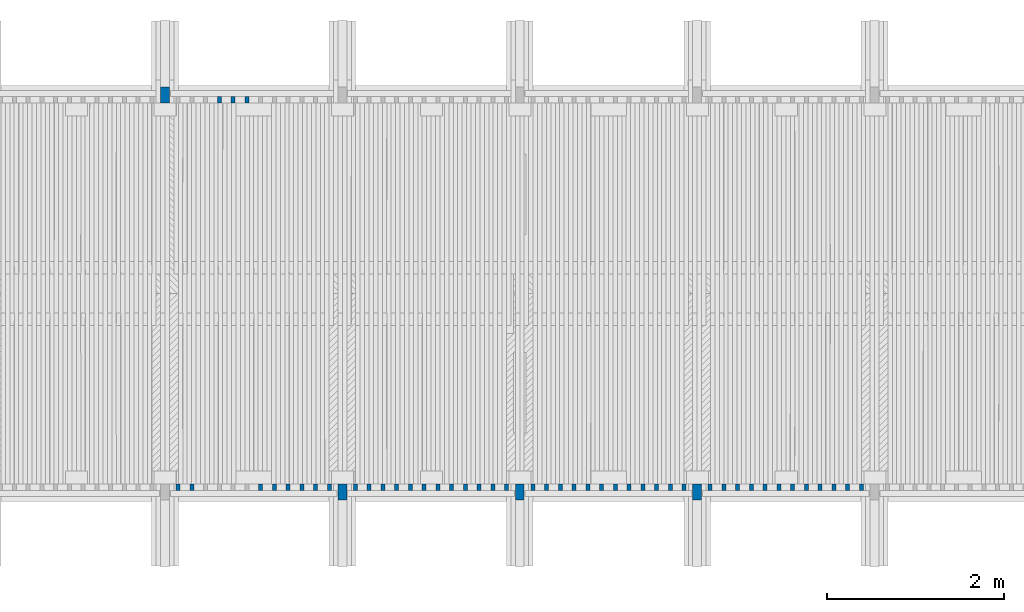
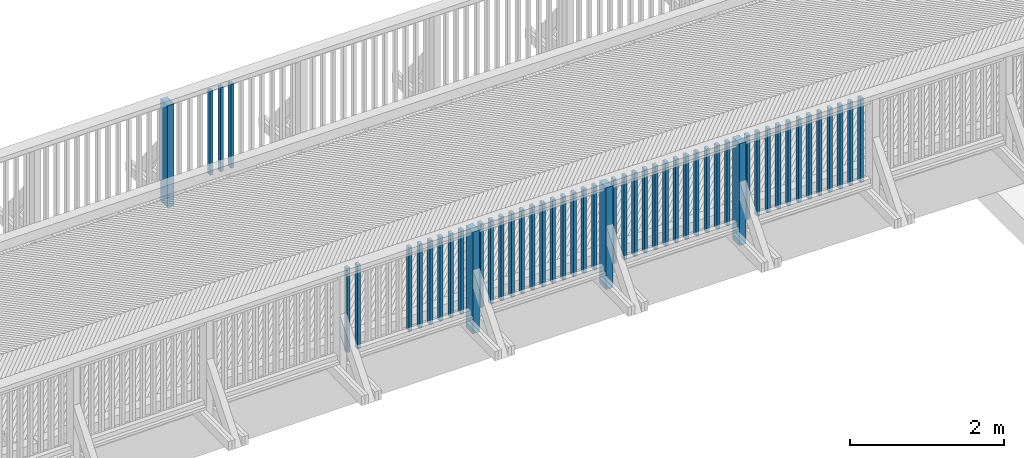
# One storey, part 8 of 53: 51 columns.
"""IFC2X3 building model written with IfcOpenShell, lengths in millimetres."""

from ifc_helpers import new_model, si_unit, frame, origin_with_axes, place, context, subcontext, project, spatial, faceted_brep, material, type_object, element, save


model = new_model("IFC2X3")

# Units and contexts
model_context = context("Model", 3, precision=1e-05, world=origin_with_axes())
body_context = subcontext(model_context, "Body", "Model", "MODEL_VIEW")
ifc_project = project(units=[si_unit("LENGTHUNIT", "METRE", prefix="MILLI"), si_unit("AREAUNIT", "SQUARE_METRE"), si_unit("VOLUMEUNIT", "CUBIC_METRE"), si_unit("MASSUNIT", "GRAM", prefix="KILO"), si_unit("TIMEUNIT", "SECOND"), si_unit("PLANEANGLEUNIT", "RADIAN"), si_unit("SOLIDANGLEUNIT", "STERADIAN"), si_unit("THERMODYNAMICTEMPERATUREUNIT", "DEGREE_CELSIUS"), si_unit("LUMINOUSINTENSITYUNIT", "LUMEN")], contexts=[model_context])

# Site, building, storey
site_placement = place(None, origin_with_axes())
site = spatial("IfcSite", under=ifc_project, at=site_placement, Name="Undefined", CompositionType="ELEMENT")
building_placement = place(site_placement, origin_with_axes())
building = spatial("IfcBuilding", under=site, at=building_placement, Name="Undefined", CompositionType="ELEMENT")
storey_placement = place(building_placement, origin_with_axes())
storey = spatial("IfcBuildingStorey", under=building, at=storey_placement, Name="Undefined", CompositionType="ELEMENT", Elevation=0.0)

# Columns
ifc_material = material(Name="TIMBER/Timber_Undefined")
column_type_1 = type_object("IfcColumnType", Name="180*100", PredefinedType="NOTDEFINED")
for number, where, z_axis, x_axis in (
    (1, (4000.00006783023, 44604.9879081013, 2930.03388043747), (0.0, -1.0, 0.0), (0.0, 0.0, 1.0)),
    (2, (10000.0000678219, 40125.0120918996, 2939.97693042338), (0.0, 1.0, 0.0), (0.0, 0.0, 1.0)),
    (3, (8000.00006782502, 40125.0120918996, 2943.29124390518), (0.0, 1.0, 0.0), (0.0, 0.0, 1.0)),
    (4, (6000.00006782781, 40125.0120918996, 2939.97693031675), (0.0, 1.0, 0.0), (0.0, 0.0, 1.0)),
):
    element("IfcColumn", number, at=place(storey_placement, frame(where, z_axis=z_axis, x_axis=x_axis)), inside=storey, type_object=column_type_1, material=ifc_material, Name="KAIDEPYLVÄS", ObjectType="180*100", context=body_context, shape_type="Brep", body=[
        faceted_brep([(0.0, 50.0, -89.9999999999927), (0.0, 50.0, 90.0), (1620.0, 50.0, 90.0), (1620.0, 50.0, -90.0), (0.0, -49.9999999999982, 90.0000000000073), (1620.0, -50.0, 90.0), (-3.63797880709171e-12, -49.9999999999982, -90.0), (1620.0, -50.0, -90.0)], [[[0, 1, 2, 3]], [[1, 4, 5, 2]], [[4, 6, 7, 5]], [[6, 0, 3, 7]], [[5, 7, 3, 2]], [[6, 4, 1, 0]]]),
    ])
column_type_2 = type_object("IfcColumnType", Name="70*45", PredefinedType="NOTDEFINED")
column_1_placement = place(storey_placement, frame((4922.50000075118, 44549.9879080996, 3109.68000000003), z_axis=(0.0, 1.0, 0.0), x_axis=(0.0, 0.0, 1.0)))
element("IfcColumn", 5, at=column_1_placement, inside=storey, type_object=column_type_2, material=ifc_material, Name="BEAM", ObjectType="70*45", context=body_context, shape_type="Brep", body=[
    faceted_brep([(110.036620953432, 22.5, -35.0), (110.036620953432, 22.5, 35.0), (1445.03757946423, 22.5, 35.0), (1445.03757946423, 22.5, -35.0), (109.801127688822, -22.5, 35.0), (1444.80208619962, -22.5, 35.0), (109.801127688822, -22.5, -35.0), (1444.80208619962, -22.5, -35.0)], [[[0, 1, 2, 3]], [[1, 4, 5, 2]], [[4, 6, 7, 5]], [[6, 0, 3, 7]], [[5, 7, 3, 2]], [[6, 4, 1, 0]]]),
])
column_2_placement = place(storey_placement, frame((4767.50000075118, 44549.9879080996, 3109.68000000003), z_axis=(0.0, 1.0, 0.0), x_axis=(0.0, 0.0, 1.0)))
element("IfcColumn", 6, at=column_2_placement, inside=storey, type_object=column_type_2, material=ifc_material, Name="BEAM", ObjectType="70*45", context=body_context, shape_type="Brep", body=[
    faceted_brep([(109.225477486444, 22.5, -35.0), (109.225477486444, 22.5, 35.0), (1444.22643599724, 22.5, 35.0), (1444.22643599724, 22.5, -35.0), (108.989984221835, -22.5, 35.0), (1443.99094273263, -22.5, 35.0), (108.989984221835, -22.5, -35.0), (1443.99094273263, -22.5, -35.0)], [[[0, 1, 2, 3]], [[1, 4, 5, 2]], [[4, 6, 7, 5]], [[6, 0, 3, 7]], [[5, 7, 3, 2]], [[6, 4, 1, 0]]]),
])
column_3_placement = place(storey_placement, frame((4612.50000075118, 44549.9879080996, 3109.68000000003), z_axis=(0.0, 1.0, 0.0), x_axis=(0.0, 0.0, 1.0)))
element("IfcColumn", 7, at=column_3_placement, inside=storey, type_object=column_type_2, material=ifc_material, Name="BEAM", ObjectType="70*45", context=body_context, shape_type="Brep", body=[
    faceted_brep([(108.414334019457, 22.5, -35.0), (108.414334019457, 22.5, 35.0), (1443.41529253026, 22.5, 35.0), (1443.41529253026, 22.5, -35.0), (108.178840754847, -22.5, 35.0), (1443.17979926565, -22.5, 35.0), (108.178840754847, -22.5, -35.0), (1443.17979926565, -22.5, -35.0)], [[[0, 1, 2, 3]], [[1, 4, 5, 2]], [[4, 6, 7, 5]], [[6, 0, 3, 7]], [[5, 7, 3, 2]], [[6, 4, 1, 0]]]),
])
column_4_placement = place(storey_placement, frame((11852.5000007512, 40180.0120919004, 3109.68000000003), z_axis=(0.0, -1.0, 0.0), x_axis=(0.0, 0.0, 1.0)))
element("IfcColumn", 8, at=column_4_placement, inside=storey, type_object=column_type_2, material=ifc_material, Name="BEAM", ObjectType="70*45", context=body_context, shape_type="Brep", body=[
    faceted_brep([(105.980903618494, 22.5, -35.0), (105.980903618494, 22.5, 35.0), (1440.98186212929, 22.5, 35.0), (1440.98186212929, 22.5, -35.0), (105.745410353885, -22.5, 35.0), (1440.74636886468, -22.5, 35.0), (105.745410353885, -22.5, -35.0), (1440.74636886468, -22.5, -35.0)], [[[0, 1, 2, 3]], [[1, 4, 5, 2]], [[4, 6, 7, 5]], [[6, 0, 3, 7]], [[5, 7, 3, 2]], [[6, 4, 1, 0]]]),
])
column_5_placement = place(storey_placement, frame((11697.5000007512, 40180.0120919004, 3109.68000000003), z_axis=(0.0, -1.0, 0.0), x_axis=(0.0, 0.0, 1.0)))
element("IfcColumn", 9, at=column_5_placement, inside=storey, type_object=column_type_2, material=ifc_material, Name="BEAM", ObjectType="70*45", context=body_context, shape_type="Brep", body=[
    faceted_brep([(106.792047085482, 22.5, -35.0), (106.792047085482, 22.5, 35.0), (1441.79300559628, 22.5, 35.0), (1441.79300559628, 22.5, -35.0), (106.556553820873, -22.5, 35.0), (1441.55751233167, -22.5, 35.0), (106.556553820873, -22.5, -35.0), (1441.55751233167, -22.5, -35.0)], [[[0, 1, 2, 3]], [[1, 4, 5, 2]], [[4, 6, 7, 5]], [[6, 0, 3, 7]], [[5, 7, 3, 2]], [[6, 4, 1, 0]]]),
])
column_6_placement = place(storey_placement, frame((11542.5000007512, 40180.0120919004, 3109.68000000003), z_axis=(0.0, -1.0, 0.0), x_axis=(0.0, 0.0, 1.0)))
element("IfcColumn", 10, at=column_6_placement, inside=storey, type_object=column_type_2, material=ifc_material, Name="BEAM", ObjectType="70*45", context=body_context, shape_type="Brep", body=[
    faceted_brep([(107.603190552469, 22.5, -35.0), (107.603190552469, 22.5, 35.0), (1442.60414906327, 22.5, 35.0), (1442.60414906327, 22.5, -35.0), (107.36769728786, -22.5, 35.0), (1442.36865579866, -22.5, 35.0), (107.36769728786, -22.5, -35.0), (1442.36865579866, -22.5, -35.0)], [[[0, 1, 2, 3]], [[1, 4, 5, 2]], [[4, 6, 7, 5]], [[6, 0, 3, 7]], [[5, 7, 3, 2]], [[6, 4, 1, 0]]]),
])
column_7_placement = place(storey_placement, frame((11387.5000007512, 40180.0120919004, 3109.68000000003), z_axis=(0.0, -1.0, 0.0), x_axis=(0.0, 0.0, 1.0)))
element("IfcColumn", 11, at=column_7_placement, inside=storey, type_object=column_type_2, material=ifc_material, Name="BEAM", ObjectType="70*45", context=body_context, shape_type="Brep", body=[
    faceted_brep([(108.414334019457, 22.5, -35.0), (108.414334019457, 22.5, 35.0), (1443.41529253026, 22.5, 35.0), (1443.41529253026, 22.5, -35.0), (108.178840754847, -22.5, 35.0), (1443.17979926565, -22.5, 35.0), (108.178840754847, -22.5, -35.0), (1443.17979926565, -22.5, -35.0)], [[[0, 1, 2, 3]], [[1, 4, 5, 2]], [[4, 6, 7, 5]], [[6, 0, 3, 7]], [[5, 7, 3, 2]], [[6, 4, 1, 0]]]),
])
column_8_placement = place(storey_placement, frame((11232.5000007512, 40180.0120919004, 3109.68000000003), z_axis=(0.0, -1.0, 0.0), x_axis=(0.0, 0.0, 1.0)))
element("IfcColumn", 12, at=column_8_placement, inside=storey, type_object=column_type_2, material=ifc_material, Name="BEAM", ObjectType="70*45", context=body_context, shape_type="Brep", body=[
    faceted_brep([(109.225477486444, 22.5, -35.0), (109.225477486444, 22.5, 35.0), (1444.22643599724, 22.5, 35.0), (1444.22643599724, 22.5, -35.0), (108.989984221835, -22.5, 35.0), (1443.99094273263, -22.5, 35.0), (108.989984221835, -22.5, -35.0), (1443.99094273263, -22.5, -35.0)], [[[0, 1, 2, 3]], [[1, 4, 5, 2]], [[4, 6, 7, 5]], [[6, 0, 3, 7]], [[5, 7, 3, 2]], [[6, 4, 1, 0]]]),
])
column_9_placement = place(storey_placement, frame((11077.5000007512, 40180.0120919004, 3109.68000000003), z_axis=(0.0, -1.0, 0.0), x_axis=(0.0, 0.0, 1.0)))
element("IfcColumn", 13, at=column_9_placement, inside=storey, type_object=column_type_2, material=ifc_material, Name="BEAM", ObjectType="70*45", context=body_context, shape_type="Brep", body=[
    faceted_brep([(110.036620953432, 22.5, -35.0), (110.036620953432, 22.5, 35.0), (1445.03757946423, 22.5, 35.0), (1445.03757946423, 22.5, -35.0), (109.801127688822, -22.5, 35.0), (1444.80208619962, -22.5, 35.0), (109.801127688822, -22.5, -35.0), (1444.80208619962, -22.5, -35.0)], [[[0, 1, 2, 3]], [[1, 4, 5, 2]], [[4, 6, 7, 5]], [[6, 0, 3, 7]], [[5, 7, 3, 2]], [[6, 4, 1, 0]]]),
])
column_10_placement = place(storey_placement, frame((10922.5000007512, 40180.0120919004, 3109.68000000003), z_axis=(0.0, -1.0, 0.0), x_axis=(0.0, 0.0, 1.0)))
element("IfcColumn", 14, at=column_10_placement, inside=storey, type_object=column_type_2, material=ifc_material, Name="BEAM", ObjectType="70*45", context=body_context, shape_type="Brep", body=[
    faceted_brep([(110.847764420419, 22.5, -35.0), (110.847764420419, 22.5, 35.0), (1445.84872293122, 22.5, 35.0), (1445.84872293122, 22.5, -35.0), (110.61227115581, -22.5, 35.0), (1445.61322966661, -22.5, 35.0), (110.61227115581, -22.5, -35.0), (1445.61322966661, -22.5, -35.0)], [[[0, 1, 2, 3]], [[1, 4, 5, 2]], [[4, 6, 7, 5]], [[6, 0, 3, 7]], [[5, 7, 3, 2]], [[6, 4, 1, 0]]]),
])
column_11_placement = place(storey_placement, frame((10767.5000007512, 40180.0120919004, 3109.68000000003), z_axis=(0.0, -1.0, 0.0), x_axis=(0.0, 0.0, 1.0)))
element("IfcColumn", 15, at=column_11_placement, inside=storey, type_object=column_type_2, material=ifc_material, Name="BEAM", ObjectType="70*45", context=body_context, shape_type="Brep", body=[
    faceted_brep([(111.658907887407, 22.5, -35.0), (111.658907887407, 22.5, 35.0), (1446.65986639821, 22.5, 35.0), (1446.65986639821, 22.5, -35.0), (111.423414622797, -22.5, 35.0), (1446.4243731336, -22.5, 35.0), (111.423414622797, -22.5, -35.0), (1446.4243731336, -22.5, -35.0)], [[[0, 1, 2, 3]], [[1, 4, 5, 2]], [[4, 6, 7, 5]], [[6, 0, 3, 7]], [[5, 7, 3, 2]], [[6, 4, 1, 0]]]),
])
column_12_placement = place(storey_placement, frame((10612.5000007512, 40180.0120919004, 3109.68000000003), z_axis=(0.0, -1.0, 0.0), x_axis=(0.0, 0.0, 1.0)))
element("IfcColumn", 16, at=column_12_placement, inside=storey, type_object=column_type_2, material=ifc_material, Name="BEAM", ObjectType="70*45", context=body_context, shape_type="Brep", body=[
    faceted_brep([(112.470051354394, 22.5, -35.0), (112.470051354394, 22.5, 35.0), (1447.47100986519, 22.5, 35.0), (1447.47100986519, 22.5, -35.0), (112.234558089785, -22.5, 35.0), (1447.23551660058, -22.5, 35.0), (112.234558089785, -22.5, -35.0), (1447.23551660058, -22.5, -35.0)], [[[0, 1, 2, 3]], [[1, 4, 5, 2]], [[4, 6, 7, 5]], [[6, 0, 3, 7]], [[5, 7, 3, 2]], [[6, 4, 1, 0]]]),
])
column_13_placement = place(storey_placement, frame((10457.5000007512, 40180.0120919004, 3109.68000000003), z_axis=(0.0, -1.0, 0.0), x_axis=(0.0, 0.0, 1.0)))
element("IfcColumn", 17, at=column_13_placement, inside=storey, type_object=column_type_2, material=ifc_material, Name="BEAM", ObjectType="70*45", context=body_context, shape_type="Brep", body=[
    faceted_brep([(113.281194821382, 22.5, -35.0), (113.281194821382, 22.5, 35.0), (1448.28215333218, 22.5, 35.0), (1448.28215333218, 22.5, -35.0), (113.045701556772, -22.5, 35.0), (1448.04666006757, -22.5, 35.0), (113.045701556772, -22.5, -35.0), (1448.04666006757, -22.5, -35.0)], [[[0, 1, 2, 3]], [[1, 4, 5, 2]], [[4, 6, 7, 5]], [[6, 0, 3, 7]], [[5, 7, 3, 2]], [[6, 4, 1, 0]]]),
])
column_14_placement = place(storey_placement, frame((10302.5000007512, 40180.0120919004, 3109.68000000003), z_axis=(0.0, -1.0, 0.0), x_axis=(0.0, 0.0, 1.0)))
element("IfcColumn", 18, at=column_14_placement, inside=storey, type_object=column_type_2, material=ifc_material, Name="BEAM", ObjectType="70*45", context=body_context, shape_type="Brep", body=[
    faceted_brep([(114.092338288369, 22.5, -35.0), (114.092338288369, 22.5, 35.0), (1449.09329679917, 22.5, 35.0), (1449.09329679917, 22.5, -35.0), (113.85684502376, -22.5, 35.0), (1448.85780353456, -22.5, 35.0), (113.85684502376, -22.5, -35.0), (1448.85780353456, -22.5, -35.0)], [[[0, 1, 2, 3]], [[1, 4, 5, 2]], [[4, 6, 7, 5]], [[6, 0, 3, 7]], [[5, 7, 3, 2]], [[6, 4, 1, 0]]]),
])
column_15_placement = place(storey_placement, frame((10147.5000007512, 40180.0120919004, 3109.68000000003), z_axis=(0.0, -1.0, 0.0), x_axis=(0.0, 0.0, 1.0)))
element("IfcColumn", 19, at=column_15_placement, inside=storey, type_object=column_type_2, material=ifc_material, Name="BEAM", ObjectType="70*45", context=body_context, shape_type="Brep", body=[
    faceted_brep([(114.903481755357, 22.5, -35.0), (114.903481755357, 22.5, 35.0), (1449.90444026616, 22.5, 35.0), (1449.90444026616, 22.5, -35.0), (114.667988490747, -22.5, 35.0), (1449.66894700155, -22.5, 35.0), (114.667988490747, -22.5, -35.0), (1449.66894700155, -22.5, -35.0)], [[[0, 1, 2, 3]], [[1, 4, 5, 2]], [[4, 6, 7, 5]], [[6, 0, 3, 7]], [[5, 7, 3, 2]], [[6, 4, 1, 0]]]),
])
column_16_placement = place(storey_placement, frame((9852.50000075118, 40180.0120919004, 3109.68000000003), z_axis=(0.0, -1.0, 0.0), x_axis=(0.0, 0.0, 1.0)))
element("IfcColumn", 20, at=column_16_placement, inside=storey, type_object=column_type_2, material=ifc_material, Name="BEAM", ObjectType="70*45", context=body_context, shape_type="Brep", body=[
    faceted_brep([(115.506148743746, 22.5, -35.0), (115.506148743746, 22.5, 35.0), (1450.50625524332, 22.5, 35.0), (1450.50625524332, 22.5, -35.0), (115.427651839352, -22.5, 35.0), (1450.42775833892, -22.5, 35.0), (115.427651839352, -22.5, -35.0), (1450.42775833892, -22.5, -35.0)], [[[0, 1, 2, 3]], [[1, 4, 5, 2]], [[4, 6, 7, 5]], [[6, 0, 3, 7]], [[5, 7, 3, 2]], [[6, 4, 1, 0]]]),
])
column_17_placement = place(storey_placement, frame((9697.50000075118, 40180.0120919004, 3109.68000000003), z_axis=(0.0, -1.0, 0.0), x_axis=(0.0, 0.0, 1.0)))
element("IfcColumn", 21, at=column_17_placement, inside=storey, type_object=column_type_2, material=ifc_material, Name="BEAM", ObjectType="70*45", context=body_context, shape_type="Brep", body=[
    faceted_brep([(115.776526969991, 22.5, -35.0), (115.776526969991, 22.5, 35.0), (1450.77663346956, 22.5, 35.0), (1450.77663346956, 22.5, -35.0), (115.698030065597, -22.5, 35.0), (1450.69813656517, -22.5, 35.0), (115.698030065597, -22.5, -35.0), (1450.69813656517, -22.5, -35.0)], [[[0, 1, 2, 3]], [[1, 4, 5, 2]], [[4, 6, 7, 5]], [[6, 0, 3, 7]], [[5, 7, 3, 2]], [[6, 4, 1, 0]]]),
])
column_18_placement = place(storey_placement, frame((9542.50000075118, 40180.0120919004, 3109.68000000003), z_axis=(0.0, -1.0, 0.0), x_axis=(0.0, 0.0, 1.0)))
element("IfcColumn", 22, at=column_18_placement, inside=storey, type_object=column_type_2, material=ifc_material, Name="BEAM", ObjectType="70*45", context=body_context, shape_type="Brep", body=[
    faceted_brep([(116.046905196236, 22.5, -35.0), (116.046905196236, 22.5, 35.0), (1451.04701169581, 22.5, 35.0), (1451.04701169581, 22.5, -35.0), (115.968408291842, -22.5, 35.0), (1450.96851479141, -22.5, 35.0), (115.968408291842, -22.5, -35.0), (1450.96851479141, -22.5, -35.0)], [[[0, 1, 2, 3]], [[1, 4, 5, 2]], [[4, 6, 7, 5]], [[6, 0, 3, 7]], [[5, 7, 3, 2]], [[6, 4, 1, 0]]]),
])
column_19_placement = place(storey_placement, frame((9387.50000075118, 40180.0120919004, 3109.68000000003), z_axis=(0.0, -1.0, 0.0), x_axis=(0.0, 0.0, 1.0)))
element("IfcColumn", 23, at=column_19_placement, inside=storey, type_object=column_type_2, material=ifc_material, Name="BEAM", ObjectType="70*45", context=body_context, shape_type="Brep", body=[
    faceted_brep([(116.317283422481, 22.5, -35.0), (116.317283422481, 22.5, 35.0), (1451.31738992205, 22.5, 35.0), (1451.31738992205, 22.5, -35.0), (116.238786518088, -22.5, 35.0), (1451.23889301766, -22.5, 35.0), (116.238786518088, -22.5, -35.0), (1451.23889301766, -22.5, -35.0)], [[[0, 1, 2, 3]], [[1, 4, 5, 2]], [[4, 6, 7, 5]], [[6, 0, 3, 7]], [[5, 7, 3, 2]], [[6, 4, 1, 0]]]),
])
column_20_placement = place(storey_placement, frame((9232.50000075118, 40180.0120919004, 3109.68000000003), z_axis=(0.0, -1.0, 0.0), x_axis=(0.0, 0.0, 1.0)))
element("IfcColumn", 24, at=column_20_placement, inside=storey, type_object=column_type_2, material=ifc_material, Name="BEAM", ObjectType="70*45", context=body_context, shape_type="Brep", body=[
    faceted_brep([(116.587661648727, 22.5, -35.0), (116.587661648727, 22.5, 35.0), (1451.5877681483, 22.5, 35.0), (1451.5877681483, 22.5, -35.0), (116.509164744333, -22.5, 35.0), (1451.5092712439, -22.5, 35.0), (116.509164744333, -22.5, -35.0), (1451.5092712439, -22.5, -35.0)], [[[0, 1, 2, 3]], [[1, 4, 5, 2]], [[4, 6, 7, 5]], [[6, 0, 3, 7]], [[5, 7, 3, 2]], [[6, 4, 1, 0]]]),
])
column_21_placement = place(storey_placement, frame((9077.50000075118, 40180.0120919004, 3109.68000000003), z_axis=(0.0, -1.0, 0.0), x_axis=(0.0, 0.0, 1.0)))
element("IfcColumn", 25, at=column_21_placement, inside=storey, type_object=column_type_2, material=ifc_material, Name="BEAM", ObjectType="70*45", context=body_context, shape_type="Brep", body=[
    faceted_brep([(116.858039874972, 22.5, -35.0), (116.858039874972, 22.5, 35.0), (1451.85814637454, 22.5, 35.0), (1451.85814637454, 22.5, -35.0), (116.779542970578, -22.5, 35.0), (1451.77964947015, -22.5, 35.0), (116.779542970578, -22.5, -35.0), (1451.77964947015, -22.5, -35.0)], [[[0, 1, 2, 3]], [[1, 4, 5, 2]], [[4, 6, 7, 5]], [[6, 0, 3, 7]], [[5, 7, 3, 2]], [[6, 4, 1, 0]]]),
])
column_22_placement = place(storey_placement, frame((8922.50000075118, 40180.0120919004, 3109.68000000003), z_axis=(0.0, -1.0, 0.0), x_axis=(0.0, 0.0, 1.0)))
element("IfcColumn", 26, at=column_22_placement, inside=storey, type_object=column_type_2, material=ifc_material, Name="BEAM", ObjectType="70*45", context=body_context, shape_type="Brep", body=[
    faceted_brep([(117.128418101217, 22.5, -35.0), (117.128418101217, 22.5, 35.0), (1452.12852460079, 22.5, 35.0), (1452.12852460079, 22.5, -35.0), (117.049921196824, -22.5, 35.0), (1452.05002769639, -22.5, 35.0), (117.049921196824, -22.5, -35.0), (1452.05002769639, -22.5, -35.0)], [[[0, 1, 2, 3]], [[1, 4, 5, 2]], [[4, 6, 7, 5]], [[6, 0, 3, 7]], [[5, 7, 3, 2]], [[6, 4, 1, 0]]]),
])
column_23_placement = place(storey_placement, frame((8767.50000075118, 40180.0120919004, 3109.68000000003), z_axis=(0.0, -1.0, 0.0), x_axis=(0.0, 0.0, 1.0)))
element("IfcColumn", 27, at=column_23_placement, inside=storey, type_object=column_type_2, material=ifc_material, Name="BEAM", ObjectType="70*45", context=body_context, shape_type="Brep", body=[
    faceted_brep([(117.398796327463, 22.5, -35.0), (117.398796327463, 22.5, 35.0), (1452.39890282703, 22.5, 35.0), (1452.39890282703, 22.5, -35.0), (117.320299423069, -22.5, 35.0), (1452.32040592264, -22.5, 35.0), (117.320299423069, -22.5, -35.0), (1452.32040592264, -22.5, -35.0)], [[[0, 1, 2, 3]], [[1, 4, 5, 2]], [[4, 6, 7, 5]], [[6, 0, 3, 7]], [[5, 7, 3, 2]], [[6, 4, 1, 0]]]),
])
column_24_placement = place(storey_placement, frame((8612.50000075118, 40180.0120919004, 3109.68000000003), z_axis=(0.0, -1.0, 0.0), x_axis=(0.0, 0.0, 1.0)))
element("IfcColumn", 28, at=column_24_placement, inside=storey, type_object=column_type_2, material=ifc_material, Name="BEAM", ObjectType="70*45", context=body_context, shape_type="Brep", body=[
    faceted_brep([(117.669174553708, 22.5, -35.0), (117.669174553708, 22.5, 35.0), (1452.66928105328, 22.5, 35.0), (1452.66928105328, 22.5, -35.0), (117.590677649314, -22.5, 35.0), (1452.59078414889, -22.5, 35.0), (117.590677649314, -22.5, -35.0), (1452.59078414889, -22.5, -35.0)], [[[0, 1, 2, 3]], [[1, 4, 5, 2]], [[4, 6, 7, 5]], [[6, 0, 3, 7]], [[5, 7, 3, 2]], [[6, 4, 1, 0]]]),
])
column_25_placement = place(storey_placement, frame((8457.50000075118, 40180.0120919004, 3109.68000000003), z_axis=(0.0, -1.0, 0.0), x_axis=(0.0, 0.0, 1.0)))
element("IfcColumn", 29, at=column_25_placement, inside=storey, type_object=column_type_2, material=ifc_material, Name="BEAM", ObjectType="70*45", context=body_context, shape_type="Brep", body=[
    faceted_brep([(117.939552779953, 22.5, -35.0), (117.939552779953, 22.5, 35.0), (1452.93965927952, 22.5, 35.0), (1452.93965927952, 22.5, -35.0), (117.861055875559, -22.5, 35.0), (1452.86116237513, -22.5, 35.0), (117.861055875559, -22.5, -35.0), (1452.86116237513, -22.5, -35.0)], [[[0, 1, 2, 3]], [[1, 4, 5, 2]], [[4, 6, 7, 5]], [[6, 0, 3, 7]], [[5, 7, 3, 2]], [[6, 4, 1, 0]]]),
])
column_26_placement = place(storey_placement, frame((8302.50000075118, 40180.0120919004, 3109.68000000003), z_axis=(0.0, -1.0, 0.0), x_axis=(0.0, 0.0, 1.0)))
element("IfcColumn", 30, at=column_26_placement, inside=storey, type_object=column_type_2, material=ifc_material, Name="BEAM", ObjectType="70*45", context=body_context, shape_type="Brep", body=[
    faceted_brep([(118.209931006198, 22.5, -35.0), (118.209931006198, 22.5, 35.0), (1453.21003750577, 22.5, 35.0), (1453.21003750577, 22.5, -35.0), (118.131434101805, -22.5, 35.0), (1453.13154060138, -22.5, 35.0), (118.131434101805, -22.5, -35.0), (1453.13154060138, -22.5, -35.0)], [[[0, 1, 2, 3]], [[1, 4, 5, 2]], [[4, 6, 7, 5]], [[6, 0, 3, 7]], [[5, 7, 3, 2]], [[6, 4, 1, 0]]]),
])
column_27_placement = place(storey_placement, frame((8147.50000075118, 40180.0120919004, 3109.68000000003), z_axis=(0.0, -1.0, 0.0), x_axis=(0.0, 0.0, 1.0)))
element("IfcColumn", 31, at=column_27_placement, inside=storey, type_object=column_type_2, material=ifc_material, Name="BEAM", ObjectType="70*45", context=body_context, shape_type="Brep", body=[
    faceted_brep([(118.480309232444, 22.5, -35.0), (118.480309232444, 22.5, 35.0), (1453.48041573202, 22.5, 35.0), (1453.48041573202, 22.5, -35.0), (118.40181232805, -22.5, 35.0), (1453.40191882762, -22.5, 35.0), (118.40181232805, -22.5, -35.0), (1453.40191882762, -22.5, -35.0)], [[[0, 1, 2, 3]], [[1, 4, 5, 2]], [[4, 6, 7, 5]], [[6, 0, 3, 7]], [[5, 7, 3, 2]], [[6, 4, 1, 0]]]),
])
column_28_placement = place(storey_placement, frame((7852.50000075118, 40180.0120919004, 3109.68000000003), z_axis=(0.0, -1.0, 0.0), x_axis=(0.0, 0.0, 1.0)))
element("IfcColumn", 32, at=column_28_placement, inside=storey, type_object=column_type_2, material=ifc_material, Name="BEAM", ObjectType="70*45", context=body_context, shape_type="Brep", body=[
    faceted_brep([(118.401812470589, 22.5, -35.0), (118.401812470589, 22.5, 35.0), (1453.40191897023, 22.5, 35.0), (1453.40191897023, 22.5, -35.0), (118.480309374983, -22.5, 35.0), (1453.48041587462, -22.5, 35.0), (118.480309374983, -22.5, -35.0), (1453.48041587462, -22.5, -35.0)], [[[0, 1, 2, 3]], [[1, 4, 5, 2]], [[4, 6, 7, 5]], [[6, 0, 3, 7]], [[5, 7, 3, 2]], [[6, 4, 1, 0]]]),
])
column_29_placement = place(storey_placement, frame((7697.50000075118, 40180.0120919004, 3109.68000000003), z_axis=(0.0, -1.0, 0.0), x_axis=(0.0, 0.0, 1.0)))
element("IfcColumn", 33, at=column_29_placement, inside=storey, type_object=column_type_2, material=ifc_material, Name="BEAM", ObjectType="70*45", context=body_context, shape_type="Brep", body=[
    faceted_brep([(118.131434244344, 22.5, -35.0), (118.131434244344, 22.5, 35.0), (1453.13154074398, 22.5, 35.0), (1453.13154074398, 22.5, -35.0), (118.209931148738, -22.5, 35.0), (1453.21003764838, -22.5, 35.0), (118.209931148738, -22.5, -35.0), (1453.21003764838, -22.5, -35.0)], [[[0, 1, 2, 3]], [[1, 4, 5, 2]], [[4, 6, 7, 5]], [[6, 0, 3, 7]], [[5, 7, 3, 2]], [[6, 4, 1, 0]]]),
])
column_30_placement = place(storey_placement, frame((7542.50000075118, 40180.0120919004, 3109.68000000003), z_axis=(0.0, -1.0, 0.0), x_axis=(0.0, 0.0, 1.0)))
element("IfcColumn", 34, at=column_30_placement, inside=storey, type_object=column_type_2, material=ifc_material, Name="BEAM", ObjectType="70*45", context=body_context, shape_type="Brep", body=[
    faceted_brep([(117.861056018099, 22.5, -35.0), (117.861056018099, 22.5, 35.0), (1452.86116251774, 22.5, 35.0), (1452.86116251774, 22.5, -35.0), (117.939552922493, -22.5, 35.0), (1452.93965942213, -22.5, 35.0), (117.939552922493, -22.5, -35.0), (1452.93965942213, -22.5, -35.0)], [[[0, 1, 2, 3]], [[1, 4, 5, 2]], [[4, 6, 7, 5]], [[6, 0, 3, 7]], [[5, 7, 3, 2]], [[6, 4, 1, 0]]]),
])
column_31_placement = place(storey_placement, frame((7387.50000075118, 40180.0120919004, 3109.68000000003), z_axis=(0.0, -1.0, 0.0), x_axis=(0.0, 0.0, 1.0)))
element("IfcColumn", 35, at=column_31_placement, inside=storey, type_object=column_type_2, material=ifc_material, Name="BEAM", ObjectType="70*45", context=body_context, shape_type="Brep", body=[
    faceted_brep([(117.590677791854, 22.5, -35.0), (117.590677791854, 22.5, 35.0), (1452.59078429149, 22.5, 35.0), (1452.59078429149, 22.5, -35.0), (117.669174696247, -22.5, 35.0), (1452.66928119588, -22.5, 35.0), (117.669174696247, -22.5, -35.0), (1452.66928119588, -22.5, -35.0)], [[[0, 1, 2, 3]], [[1, 4, 5, 2]], [[4, 6, 7, 5]], [[6, 0, 3, 7]], [[5, 7, 3, 2]], [[6, 4, 1, 0]]]),
])
column_32_placement = place(storey_placement, frame((7232.50000075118, 40180.0120919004, 3109.68000000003), z_axis=(0.0, -1.0, 0.0), x_axis=(0.0, 0.0, 1.0)))
element("IfcColumn", 36, at=column_32_placement, inside=storey, type_object=column_type_2, material=ifc_material, Name="BEAM", ObjectType="70*45", context=body_context, shape_type="Brep", body=[
    faceted_brep([(117.320299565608, 22.5, -35.0), (117.320299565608, 22.5, 35.0), (1452.32040606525, 22.5, 35.0), (1452.32040606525, 22.5, -35.0), (117.398796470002, -22.5, 35.0), (1452.39890296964, -22.5, 35.0), (117.398796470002, -22.5, -35.0), (1452.39890296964, -22.5, -35.0)], [[[0, 1, 2, 3]], [[1, 4, 5, 2]], [[4, 6, 7, 5]], [[6, 0, 3, 7]], [[5, 7, 3, 2]], [[6, 4, 1, 0]]]),
])
column_33_placement = place(storey_placement, frame((7077.50000075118, 40180.0120919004, 3109.68000000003), z_axis=(0.0, -1.0, 0.0), x_axis=(0.0, 0.0, 1.0)))
element("IfcColumn", 37, at=column_33_placement, inside=storey, type_object=column_type_2, material=ifc_material, Name="BEAM", ObjectType="70*45", context=body_context, shape_type="Brep", body=[
    faceted_brep([(117.049921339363, 22.5, -35.0), (117.049921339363, 22.5, 35.0), (1452.050027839, 22.5, 35.0), (1452.050027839, 22.5, -35.0), (117.128418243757, -22.5, 35.0), (1452.12852474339, -22.5, 35.0), (117.128418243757, -22.5, -35.0), (1452.12852474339, -22.5, -35.0)], [[[0, 1, 2, 3]], [[1, 4, 5, 2]], [[4, 6, 7, 5]], [[6, 0, 3, 7]], [[5, 7, 3, 2]], [[6, 4, 1, 0]]]),
])
column_34_placement = place(storey_placement, frame((6922.50000075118, 40180.0120919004, 3109.68000000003), z_axis=(0.0, -1.0, 0.0), x_axis=(0.0, 0.0, 1.0)))
element("IfcColumn", 38, at=column_34_placement, inside=storey, type_object=column_type_2, material=ifc_material, Name="BEAM", ObjectType="70*45", context=body_context, shape_type="Brep", body=[
    faceted_brep([(116.779543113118, 22.5, -35.0), (116.779543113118, 22.5, 35.0), (1451.77964961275, 22.5, 35.0), (1451.77964961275, 22.5, -35.0), (116.858040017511, -22.5, 35.0), (1451.85814651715, -22.5, 35.0), (116.858040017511, -22.5, -35.0), (1451.85814651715, -22.5, -35.0)], [[[0, 1, 2, 3]], [[1, 4, 5, 2]], [[4, 6, 7, 5]], [[6, 0, 3, 7]], [[5, 7, 3, 2]], [[6, 4, 1, 0]]]),
])
column_35_placement = place(storey_placement, frame((6767.50000075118, 40180.0120919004, 3109.68000000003), z_axis=(0.0, -1.0, 0.0), x_axis=(0.0, 0.0, 1.0)))
element("IfcColumn", 39, at=column_35_placement, inside=storey, type_object=column_type_2, material=ifc_material, Name="BEAM", ObjectType="70*45", context=body_context, shape_type="Brep", body=[
    faceted_brep([(116.509164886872, 22.5, -35.0), (116.509164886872, 22.5, 35.0), (1451.50927138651, 22.5, 35.0), (1451.50927138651, 22.5, -35.0), (116.587661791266, -22.5, 35.0), (1451.5877682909, -22.5, 35.0), (116.587661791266, -22.5, -35.0), (1451.5877682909, -22.5, -35.0)], [[[0, 1, 2, 3]], [[1, 4, 5, 2]], [[4, 6, 7, 5]], [[6, 0, 3, 7]], [[5, 7, 3, 2]], [[6, 4, 1, 0]]]),
])
column_36_placement = place(storey_placement, frame((6612.50000075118, 40180.0120919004, 3109.68000000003), z_axis=(0.0, -1.0, 0.0), x_axis=(0.0, 0.0, 1.0)))
element("IfcColumn", 40, at=column_36_placement, inside=storey, type_object=column_type_2, material=ifc_material, Name="BEAM", ObjectType="70*45", context=body_context, shape_type="Brep", body=[
    faceted_brep([(116.238786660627, 22.5, -35.0), (116.238786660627, 22.5, 35.0), (1451.23889316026, 22.5, 35.0), (1451.23889316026, 22.5, -35.0), (116.317283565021, -22.5, 35.0), (1451.31739006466, -22.5, 35.0), (116.317283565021, -22.5, -35.0), (1451.31739006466, -22.5, -35.0)], [[[0, 1, 2, 3]], [[1, 4, 5, 2]], [[4, 6, 7, 5]], [[6, 0, 3, 7]], [[5, 7, 3, 2]], [[6, 4, 1, 0]]]),
])
column_37_placement = place(storey_placement, frame((6457.50000075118, 40180.0120919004, 3109.68000000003), z_axis=(0.0, -1.0, 0.0), x_axis=(0.0, 0.0, 1.0)))
element("IfcColumn", 41, at=column_37_placement, inside=storey, type_object=column_type_2, material=ifc_material, Name="BEAM", ObjectType="70*45", context=body_context, shape_type="Brep", body=[
    faceted_brep([(115.968408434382, 22.5, -35.0), (115.968408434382, 22.5, 35.0), (1450.96851493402, 22.5, 35.0), (1450.96851493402, 22.5, -35.0), (116.046905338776, -22.5, 35.0), (1451.04701183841, -22.5, 35.0), (116.046905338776, -22.5, -35.0), (1451.04701183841, -22.5, -35.0)], [[[0, 1, 2, 3]], [[1, 4, 5, 2]], [[4, 6, 7, 5]], [[6, 0, 3, 7]], [[5, 7, 3, 2]], [[6, 4, 1, 0]]]),
])
column_38_placement = place(storey_placement, frame((6302.50000075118, 40180.0120919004, 3109.68000000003), z_axis=(0.0, -1.0, 0.0), x_axis=(0.0, 0.0, 1.0)))
element("IfcColumn", 42, at=column_38_placement, inside=storey, type_object=column_type_2, material=ifc_material, Name="BEAM", ObjectType="70*45", context=body_context, shape_type="Brep", body=[
    faceted_brep([(115.698030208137, 22.5, -35.0), (115.698030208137, 22.5, 35.0), (1450.69813670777, 22.5, 35.0), (1450.69813670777, 22.5, -35.0), (115.77652711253, -22.5, 35.0), (1450.77663361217, -22.5, 35.0), (115.77652711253, -22.5, -35.0), (1450.77663361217, -22.5, -35.0)], [[[0, 1, 2, 3]], [[1, 4, 5, 2]], [[4, 6, 7, 5]], [[6, 0, 3, 7]], [[5, 7, 3, 2]], [[6, 4, 1, 0]]]),
])
column_39_placement = place(storey_placement, frame((6147.50000075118, 40180.0120919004, 3109.68000000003), z_axis=(0.0, -1.0, 0.0), x_axis=(0.0, 0.0, 1.0)))
element("IfcColumn", 43, at=column_39_placement, inside=storey, type_object=column_type_2, material=ifc_material, Name="BEAM", ObjectType="70*45", context=body_context, shape_type="Brep", body=[
    faceted_brep([(115.427651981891, 22.5, -35.0), (115.427651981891, 22.5, 35.0), (1450.42775848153, 22.5, 35.0), (1450.42775848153, 22.5, -35.0), (115.506148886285, -22.5, 35.0), (1450.50625538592, -22.5, 35.0), (115.506148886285, -22.5, -35.0), (1450.50625538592, -22.5, -35.0)], [[[0, 1, 2, 3]], [[1, 4, 5, 2]], [[4, 6, 7, 5]], [[6, 0, 3, 7]], [[5, 7, 3, 2]], [[6, 4, 1, 0]]]),
])
column_40_placement = place(storey_placement, frame((5852.50000075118, 40180.0120919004, 3109.68000000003), z_axis=(0.0, -1.0, 0.0), x_axis=(0.0, 0.0, 1.0)))
element("IfcColumn", 44, at=column_40_placement, inside=storey, type_object=column_type_2, material=ifc_material, Name="BEAM", ObjectType="70*45", context=body_context, shape_type="Brep", body=[
    faceted_brep([(114.667990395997, 22.5, -35.0), (114.667990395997, 22.5, 35.0), (1449.66894890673, 22.5, 35.0), (1449.66894890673, 22.5, -35.0), (114.903483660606, -22.5, 35.0), (1449.90444217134, -22.5, 35.0), (114.903483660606, -22.5, -35.0), (1449.90444217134, -22.5, -35.0)], [[[0, 1, 2, 3]], [[1, 4, 5, 2]], [[4, 6, 7, 5]], [[6, 0, 3, 7]], [[5, 7, 3, 2]], [[6, 4, 1, 0]]]),
])
column_41_placement = place(storey_placement, frame((5697.50000075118, 40180.0120919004, 3109.68000000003), z_axis=(0.0, -1.0, 0.0), x_axis=(0.0, 0.0, 1.0)))
element("IfcColumn", 45, at=column_41_placement, inside=storey, type_object=column_type_2, material=ifc_material, Name="BEAM", ObjectType="70*45", context=body_context, shape_type="Brep", body=[
    faceted_brep([(113.856846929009, 22.5, -35.0), (113.856846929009, 22.5, 35.0), (1448.85780543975, 22.5, 35.0), (1448.85780543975, 22.5, -35.0), (114.092340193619, -22.5, 35.0), (1449.09329870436, -22.5, 35.0), (114.092340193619, -22.5, -35.0), (1449.09329870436, -22.5, -35.0)], [[[0, 1, 2, 3]], [[1, 4, 5, 2]], [[4, 6, 7, 5]], [[6, 0, 3, 7]], [[5, 7, 3, 2]], [[6, 4, 1, 0]]]),
])
column_42_placement = place(storey_placement, frame((5542.50000075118, 40180.0120919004, 3109.68000000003), z_axis=(0.0, -1.0, 0.0), x_axis=(0.0, 0.0, 1.0)))
element("IfcColumn", 46, at=column_42_placement, inside=storey, type_object=column_type_2, material=ifc_material, Name="BEAM", ObjectType="70*45", context=body_context, shape_type="Brep", body=[
    faceted_brep([(113.045703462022, 22.5, -35.0), (113.045703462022, 22.5, 35.0), (1448.04666197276, 22.5, 35.0), (1448.04666197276, 22.5, -35.0), (113.281196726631, -22.5, 35.0), (1448.28215523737, -22.5, 35.0), (113.281196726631, -22.5, -35.0), (1448.28215523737, -22.5, -35.0)], [[[0, 1, 2, 3]], [[1, 4, 5, 2]], [[4, 6, 7, 5]], [[6, 0, 3, 7]], [[5, 7, 3, 2]], [[6, 4, 1, 0]]]),
])
column_43_placement = place(storey_placement, frame((5387.50000075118, 40180.0120919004, 3109.68000000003), z_axis=(0.0, -1.0, 0.0), x_axis=(0.0, 0.0, 1.0)))
element("IfcColumn", 47, at=column_43_placement, inside=storey, type_object=column_type_2, material=ifc_material, Name="BEAM", ObjectType="70*45", context=body_context, shape_type="Brep", body=[
    faceted_brep([(112.234559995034, 22.5, -35.0), (112.234559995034, 22.5, 35.0), (1447.23551850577, 22.5, 35.0), (1447.23551850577, 22.5, -35.0), (112.470053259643, -22.5, 35.0), (1447.47101177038, -22.5, 35.0), (112.470053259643, -22.5, -35.0), (1447.47101177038, -22.5, -35.0)], [[[0, 1, 2, 3]], [[1, 4, 5, 2]], [[4, 6, 7, 5]], [[6, 0, 3, 7]], [[5, 7, 3, 2]], [[6, 4, 1, 0]]]),
])
column_44_placement = place(storey_placement, frame((5232.50000075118, 40180.0120919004, 3109.68000000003), z_axis=(0.0, -1.0, 0.0), x_axis=(0.0, 0.0, 1.0)))
element("IfcColumn", 48, at=column_44_placement, inside=storey, type_object=column_type_2, material=ifc_material, Name="BEAM", ObjectType="70*45", context=body_context, shape_type="Brep", body=[
    faceted_brep([(111.423416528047, 22.5, -35.0), (111.423416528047, 22.5, 35.0), (1446.42437503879, 22.5, 35.0), (1446.42437503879, 22.5, -35.0), (111.658909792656, -22.5, 35.0), (1446.65986830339, -22.5, 35.0), (111.658909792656, -22.5, -35.0), (1446.65986830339, -22.5, -35.0)], [[[0, 1, 2, 3]], [[1, 4, 5, 2]], [[4, 6, 7, 5]], [[6, 0, 3, 7]], [[5, 7, 3, 2]], [[6, 4, 1, 0]]]),
])
column_45_placement = place(storey_placement, frame((5077.50000075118, 40180.0120919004, 3109.68000000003), z_axis=(0.0, -1.0, 0.0), x_axis=(0.0, 0.0, 1.0)))
element("IfcColumn", 49, at=column_45_placement, inside=storey, type_object=column_type_2, material=ifc_material, Name="BEAM", ObjectType="70*45", context=body_context, shape_type="Brep", body=[
    faceted_brep([(110.61227306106, 22.5, -35.0), (110.61227306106, 22.5, 35.0), (1445.6132315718, 22.5, 35.0), (1445.6132315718, 22.5, -35.0), (110.847766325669, -22.5, 35.0), (1445.84872483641, -22.5, 35.0), (110.847766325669, -22.5, -35.0), (1445.84872483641, -22.5, -35.0)], [[[0, 1, 2, 3]], [[1, 4, 5, 2]], [[4, 6, 7, 5]], [[6, 0, 3, 7]], [[5, 7, 3, 2]], [[6, 4, 1, 0]]]),
])
column_46_placement = place(storey_placement, frame((4302.50000075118, 40180.0120919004, 3109.68000000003), z_axis=(0.0, -1.0, 0.0), x_axis=(0.0, 0.0, 1.0)))
element("IfcColumn", 50, at=column_46_placement, inside=storey, type_object=column_type_2, material=ifc_material, Name="BEAM", ObjectType="70*45", context=body_context, shape_type="Brep", body=[
    faceted_brep([(106.556555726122, 22.5, -35.0), (106.556555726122, 22.5, 35.0), (1441.55751423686, 22.5, 35.0), (1441.55751423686, 22.5, -35.0), (106.792048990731, -22.5, 35.0), (1441.79300750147, -22.5, 35.0), (106.792048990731, -22.5, -35.0), (1441.79300750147, -22.5, -35.0)], [[[0, 1, 2, 3]], [[1, 4, 5, 2]], [[4, 6, 7, 5]], [[6, 0, 3, 7]], [[5, 7, 3, 2]], [[6, 4, 1, 0]]]),
])
column_47_placement = place(storey_placement, frame((4147.50000075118, 40180.0120919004, 3109.68000000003), z_axis=(0.0, -1.0, 0.0), x_axis=(0.0, 0.0, 1.0)))
element("IfcColumn", 51, at=column_47_placement, inside=storey, type_object=column_type_2, material=ifc_material, Name="BEAM", ObjectType="70*45", context=body_context, shape_type="Brep", body=[
    faceted_brep([(105.745412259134, 22.5, -35.0), (105.745412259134, 22.5, 35.0), (1440.74637076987, 22.5, 35.0), (1440.74637076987, 22.5, -35.0), (105.980905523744, -22.5, 35.0), (1440.98186403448, -22.5, 35.0), (105.980905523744, -22.5, -35.0), (1440.98186403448, -22.5, -35.0)], [[[0, 1, 2, 3]], [[1, 4, 5, 2]], [[4, 6, 7, 5]], [[6, 0, 3, 7]], [[5, 7, 3, 2]], [[6, 4, 1, 0]]]),
])

save(model, "model.ifc")
